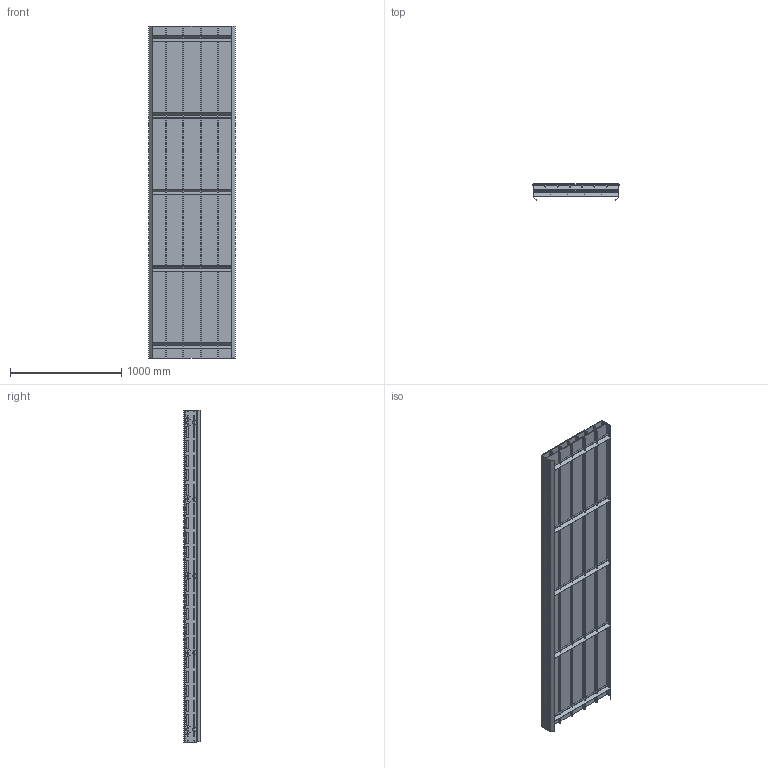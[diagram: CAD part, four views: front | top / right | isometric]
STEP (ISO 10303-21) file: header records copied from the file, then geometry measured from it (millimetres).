
FILE_DESCRIPTION (( 'STEP AP214' ), '1' );
FILE_NAME ('03.102S770.N FS-770-MTS2-100.INOX straight section L=2990.STEP', '2025-02-11T10:30:07', ( '' ), ( '' ), 'SwSTEP 2.0', 'SolidWorks 2024', '' );
FILE_SCHEMA (( 'AUTOMOTIVE_DESIGN' ));
Length unit declared in the file: millimetre
Products named in the file (1): 03.102S770.N FS-770-MTS2-100.INOX straight section L=2990
Bounding box: 777.5 x 145.63 x 2990 mm (x, y, z)
Volume: 49235055.3 mm3; surface area: 16209078.5 mm2
Topology: 26 solids, 26 shells, 1636 faces, 4752 edges, 3168 vertices
Faces by surface type: cylinder 930, plane 706
Entity records: 56256 total; most frequent: DIRECTION 9878, CARTESIAN_POINT 9581, ORIENTED_EDGE 9504, EDGE_CURVE 4752, AXIS2_PLACEMENT_3D 3497, VERTEX_POINT 3168, VECTOR 2884, LINE 2884
